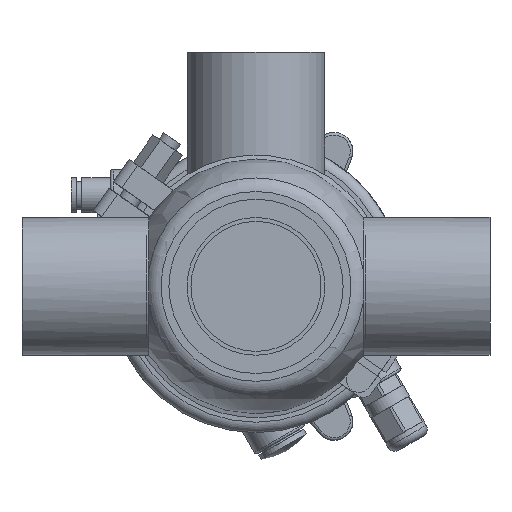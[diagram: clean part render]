
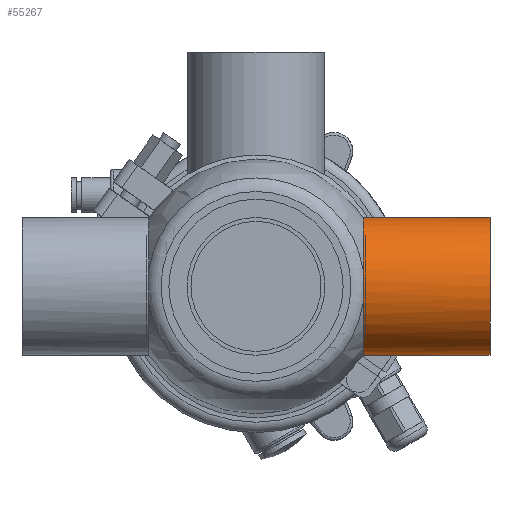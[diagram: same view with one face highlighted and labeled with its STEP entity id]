
A CAD part, front view. The second image highlights one B-rep face of the part: STEP entity #55267.
In plain terms, the highlighted cylindrical face has radius 26.5 mm (diameter 53 mm), a full revolution.
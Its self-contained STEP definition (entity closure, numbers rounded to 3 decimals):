
#560 = CYLINDRICAL_SURFACE ( 'NONE', #17036, 26.5 ) ;
#4150 = VERTEX_POINT ( 'NONE', #28938 ) ;
#4597 = CIRCLE ( 'NONE', #49094, 26.5 ) ;
#9714 = CARTESIAN_POINT ( 'NONE',  ( 41.162, -26.42, -2.131 ) ) ;
#10168 = DIRECTION ( 'NONE',  ( -1., 0., 0. ) ) ;
#11081 = CIRCLE ( 'NONE', #24963, 26.5 ) ;
#16856 = VERTEX_POINT ( 'NONE', #50529 ) ;
#17019 = CARTESIAN_POINT ( 'NONE',  ( 90., 0., 0. ) ) ;
#17036 = AXIS2_PLACEMENT_3D ( 'NONE', #47656, #10168, #18276 ) ;
#18276 = DIRECTION ( 'NONE',  ( 0., 0., 1. ) ) ;
#20979 = B_SPLINE_CURVE_WITH_KNOTS ( 'NONE', 3,
 ( #23354, #28588, #51843, #47207, #61207, #41953, #23956, #9714, #23648, #42565, #28906, #33297 ),
 .UNSPECIFIED., .F., .F.,
 ( 4, 2, 2, 2, 2, 4 ),
 ( 0., 0.003, 0.006, 0.008, 0.01, 0.013 ),
 .UNSPECIFIED. ) ;
#23354 = CARTESIAN_POINT ( 'NONE',  ( 41.216, -25.714, 6.407 ) ) ;
#23648 = CARTESIAN_POINT ( 'NONE',  ( 41.17, -26.37, -2.673 ) ) ;
#23956 = CARTESIAN_POINT ( 'NONE',  ( 41.151, -26.485, -1.052 ) ) ;
#24963 = AXIS2_PLACEMENT_3D ( 'NONE', #32444, #60992, #52244 ) ;
#26958 = VERTEX_POINT ( 'NONE', #47552 ) ;
#27203 = DIRECTION ( 'NONE',  ( -1., 0., 0. ) ) ;
#28588 = CARTESIAN_POINT ( 'NONE',  ( 41.216, -25.976, 5.353 ) ) ;
#28906 = CARTESIAN_POINT ( 'NONE',  ( 41.216, -25.976, -5.353 ) ) ;
#28938 = CARTESIAN_POINT ( 'NONE',  ( 90., 0., 26.5 ) ) ;
#32444 = CARTESIAN_POINT ( 'NONE',  ( 41.216, 0., 0. ) ) ;
#32504 = EDGE_CURVE ( 'NONE', #4150, #4150, #4597, .T. ) ;
#32631 = ORIENTED_EDGE ( 'NONE', *, *, #32504, .T. ) ;
#33297 = CARTESIAN_POINT ( 'NONE',  ( 41.216, -25.714, -6.407 ) ) ;
#33448 = FACE_OUTER_BOUND ( 'NONE', #55880, .T. ) ;
#35552 = ORIENTED_EDGE ( 'NONE', *, *, #56412, .T. ) ;
#39918 = EDGE_LOOP ( 'NONE', ( #32631 ) ) ;
#41611 = EDGE_CURVE ( 'NONE', #26958, #16856, #20979, .T. ) ;
#41953 = CARTESIAN_POINT ( 'NONE',  ( 41.148, -26.5, -0.514 ) ) ;
#42565 = CARTESIAN_POINT ( 'NONE',  ( 41.196, -26.173, -4.288 ) ) ;
#43724 = ORIENTED_EDGE ( 'NONE', *, *, #41611, .T. ) ;
#47207 = CARTESIAN_POINT ( 'NONE',  ( 41.162, -26.433, 2.166 ) ) ;
#47552 = CARTESIAN_POINT ( 'NONE',  ( 41.216, -25.714, 6.407 ) ) ;
#47656 = CARTESIAN_POINT ( 'NONE',  ( 0., 0., 0. ) ) ;
#47977 = FACE_OUTER_BOUND ( 'NONE', #39918, .T. ) ;
#49094 = AXIS2_PLACEMENT_3D ( 'NONE', #17019, #27203, #55424 ) ;
#50529 = CARTESIAN_POINT ( 'NONE',  ( 41.216, -25.714, -6.407 ) ) ;
#51843 = CARTESIAN_POINT ( 'NONE',  ( 41.196, -26.172, 4.294 ) ) ;
#52244 = DIRECTION ( 'NONE',  ( 0., 0., 1. ) ) ;
#55267 = ADVANCED_FACE ( 'NONE', ( #33448, #47977 ), #560, .T. ) ;
#55424 = DIRECTION ( 'NONE',  ( 0., 0., 1. ) ) ;
#55880 = EDGE_LOOP ( 'NONE', ( #35552, #43724 ) ) ;
#56412 = EDGE_CURVE ( 'NONE', #16856, #26958, #11081, .T. ) ;
#60992 = DIRECTION ( 'NONE',  ( 1., 0., 0. ) ) ;
#61207 = CARTESIAN_POINT ( 'NONE',  ( 41.148, -26.499, 1.097 ) ) ;
